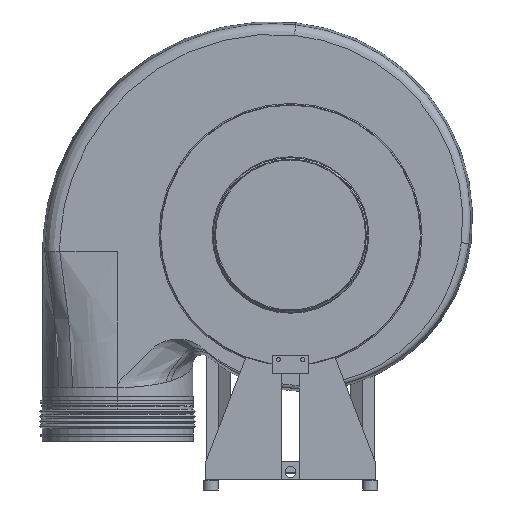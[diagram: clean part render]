
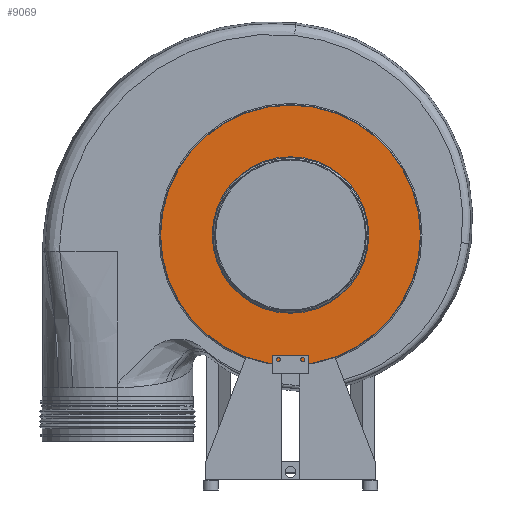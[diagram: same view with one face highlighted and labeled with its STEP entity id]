
A CAD part, front view. The second image highlights one B-rep face of the part: STEP entity #9069.
In plain terms, the highlighted planar face has unit normal (0, -1, 0).
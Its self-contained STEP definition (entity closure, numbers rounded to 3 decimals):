
#9069 = ADVANCED_FACE( '', ( #18609 ), #18610, .F. );
#18609 = FACE_OUTER_BOUND( '', #38567, .T. );
#18610 = PLANE( '', #38568 );
#38567 = EDGE_LOOP( '', ( #59553 ) );
#38568 = AXIS2_PLACEMENT_3D( '', #59554, #59555, #59556 );
#59553 = ORIENTED_EDGE( '', *, *, #65657, .T. );
#59554 = CARTESIAN_POINT( '', ( 0., 0., 0. ) );
#59555 = DIRECTION( '', ( 0., 1., 0. ) );
#59556 = DIRECTION( '', ( 0., 0., 1. ) );
#65657 = EDGE_CURVE( '', #68735, #68735, #68736, .F. );
#68735 = VERTEX_POINT( '', #74516 );
#68736 = CIRCLE( '', #74517, 433. );
#74516 = CARTESIAN_POINT( '', ( 0., 0., 433. ) );
#74517 = AXIS2_PLACEMENT_3D( '', #77888, #77889, #77890 );
#77888 = CARTESIAN_POINT( '', ( 0., 0., 0. ) );
#77889 = DIRECTION( '', ( 0., 1., 0. ) );
#77890 = DIRECTION( '', ( 0., 0., 1. ) );
